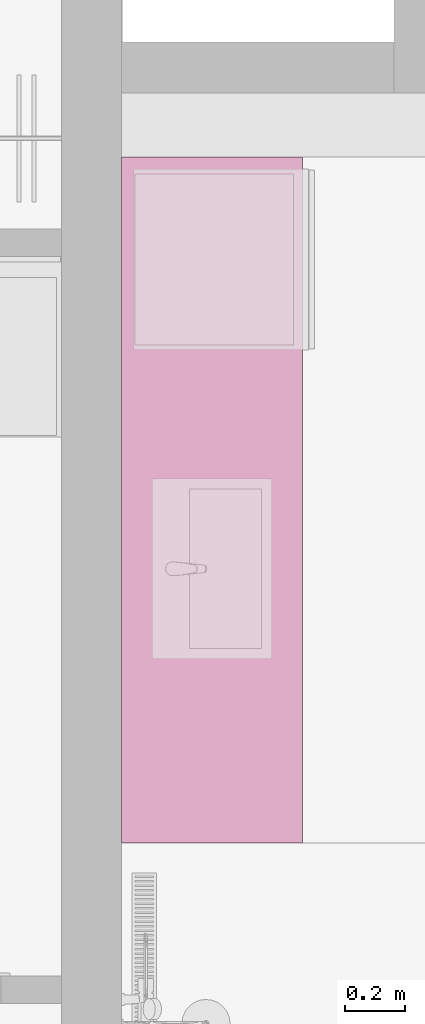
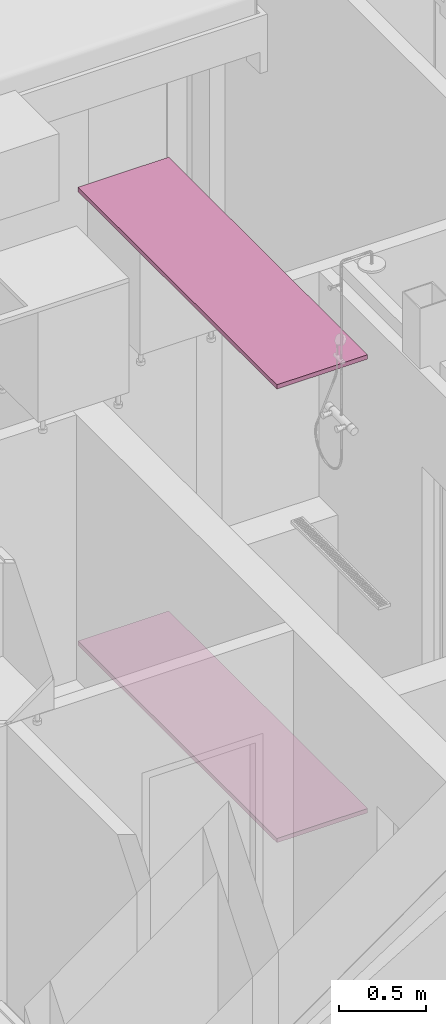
# One storey, part 68 of 125: 2 furnishings.
"""IFC2X3 building model written with IfcOpenShell, lengths in millimetres."""

from ifc_helpers import new_model, entity, si_unit, converted_unit, direction, frame, frame_2d, origin, place, context, subcontext, project, spatial, rectangle, extrude, source, transform, mapped, material, type_object, type_shapes, element, save


model = new_model("IFC2X3")

# Units and contexts
model_context = context("Model", 3, precision=0.01, world=origin(), true_north=direction((6.123233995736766e-17, 1.0)))
plan_context = context("Plan", 3, precision=0.01, world=origin(), true_north=direction((6.123233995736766e-17, 1.0)))
body_context = subcontext(model_context, "Body", "Model", "MODEL_VIEW")
ifc_project = project(units=[si_unit("LENGTHUNIT", "METRE", prefix="MILLI"), converted_unit("PLANEANGLEUNIT", "DEGREE", entity("IfcPlaneAngleMeasure", 0.017453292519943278), si_unit("PLANEANGLEUNIT", "RADIAN"), dimensions=[0, 0, 0, 0, 0, 0, 0]), si_unit("AREAUNIT", "SQUARE_METRE")], contexts=[model_context, plan_context])

# Site, building, storey, space
site_placement = place(None, origin())
site = spatial("IfcSite", under=ifc_project, at=site_placement, Name="Default", CompositionType="ELEMENT")
building_placement = place(site_placement, origin())
building = spatial("IfcBuilding", under=site, at=building_placement, CompositionType="ELEMENT")
storey_placement = place(building_placement, frame((0.0, 0.0, 3125.0)))
storey = spatial("IfcBuildingStorey", under=building, at=storey_placement, Name="2K", CompositionType="ELEMENT", Elevation=3125.0)
space_placement = place(storey_placement, origin())
space = spatial("IfcSpace", under=storey, at=space_placement, Name="2-2.4", CompositionType="ELEMENT", InteriorOrExteriorSpace="INTERNAL")

# Furnishings
ifc_material = material(Name="<Unnamed>")
furniture_type = type_object("IfcFurnitureType", Name="HR_Casework_Work-surface_Generic_Rectangular_v1:Default", AssemblyPlace="NOTDEFINED", material=ifc_material)
shared_shape = source(origin(), body_context, "Body", "SweptSolid", [
    extrude(rectangle(XDim=2276.999999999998, YDim=600.0, at=frame_2d((1.0231815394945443e-12, 0.0), x_axis=(1.0, 0.0))), frame((0.0, 300.0, -2255.0)), (0.0, 0.0, 1.0), 29.999999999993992),
])
type_shapes(furniture_type, [shared_shape])
for number, where, z_axis, x_axis, name in (
    (1, (3944.9935349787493, 10378.49999999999, 3125.0), (0.0, 0.0, 1.0), (0.0, 1.0, 0.0), "HR_Casework_Work-surface_Generic_Rectangular_v1:Default"),
    (2, (3944.9935349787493, 10378.49999999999, 6295.0), (0.0, 0.0, 1.0), (0.0, 1.0, 0.0), "HR_Casework_Work-surface_Generic_Rectangular_v1:Default"),
):
    element("IfcFurnishingElement", number, at=place(space_placement, frame(where, z_axis=z_axis, x_axis=x_axis)), inside=space, type_object=furniture_type, material=ifc_material, Name=name, ObjectType="HR_Casework_Work-surface_Generic_Rectangular_v1:Default", context=body_context, shape_type="MappedRepresentation", body=[
        mapped(shared_shape, transform((0.0, 0.0, 0.0), scale=1.0)),
    ])

save(model, "model.ifc")
